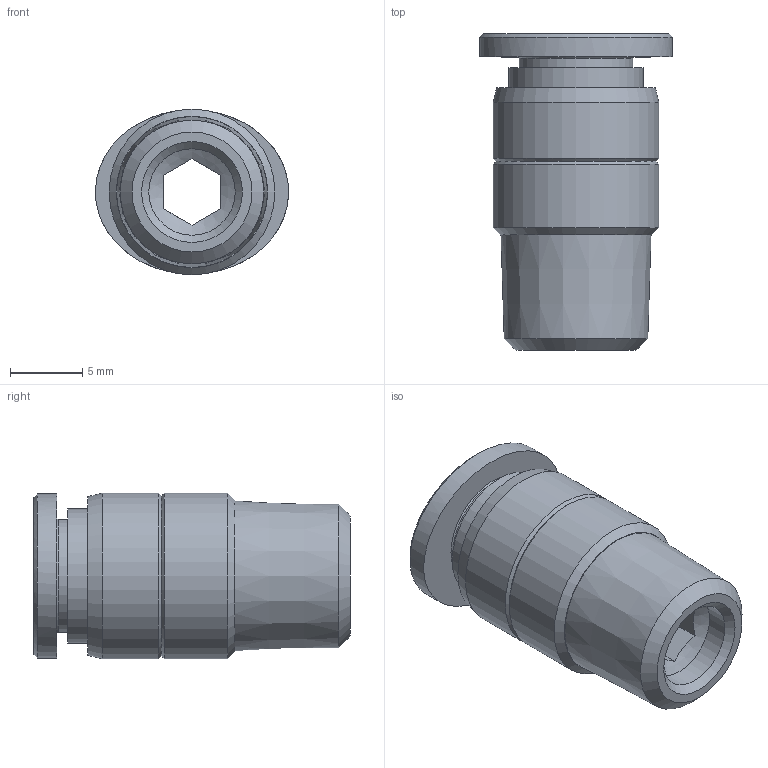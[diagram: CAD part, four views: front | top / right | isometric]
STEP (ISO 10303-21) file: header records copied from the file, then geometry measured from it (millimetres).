
FILE_DESCRIPTION((''),'2;1');
FILE_NAME('C:\Users\user0117\Desktop\김진일\홈페이지\1_4\Internet\GPOC 1_4-N01U.stp','2019-09-02T10:06:33',('user0117'),(''),'Autodesk Inventor 2013','Autodesk Inventor 2013','');
FILE_SCHEMA(('AUTOMOTIVE_DESIGN { 1 0 10303 214 1 1 1 1 }'));
Length unit declared in the file: millimetre
Products named in the file (5): GPOC 1_4-N01U; GPOC BODY 1-4 N01(BRASS); G-COLLAR G1-4C; COLLAR G1-4C; SLEEVE G1-4
Assembly tree (4 placements, depth 3):
  GPOC 1_4-N01U
    GPOC BODY 1-4 N01(BRASS)
    G-COLLAR G1-4C
      COLLAR G1-4C
      SLEEVE G1-4
Bounding box: 13.39 x 21.95 x 11.5 mm (x, y, z)
Volume: 1363.9 mm3; surface area: 1537.3 mm2
Topology: 3 solids, 3 shells, 150 faces, 383 edges, 254 vertices
Faces by surface type: plane 104, bspline 22, cylinder 14, cone 10
Full cylindrical faces by diameter (mm): 6 x1, 6.55 x3, 7.85 x1, 9.3 x1, 11.5 x2
Entity records: 4846 total; most frequent: CARTESIAN_POINT 1218, ORIENTED_EDGE 712, DIRECTION 691, EDGE_CURVE 356, VECTOR 269, LINE 269, VERTEX_POINT 246, AXIS2_PLACEMENT_3D 211
